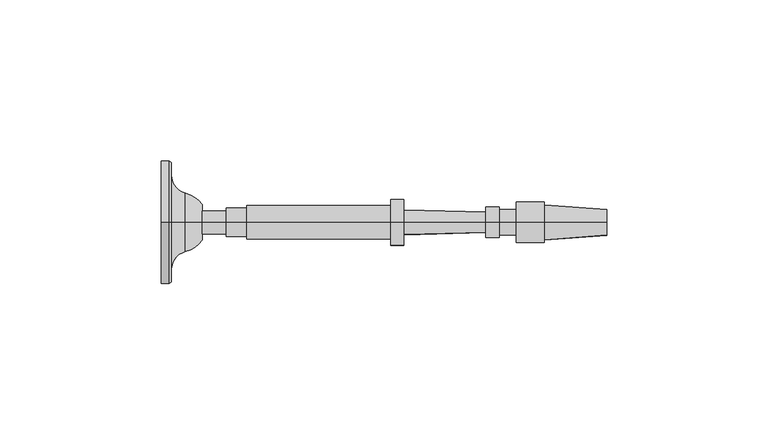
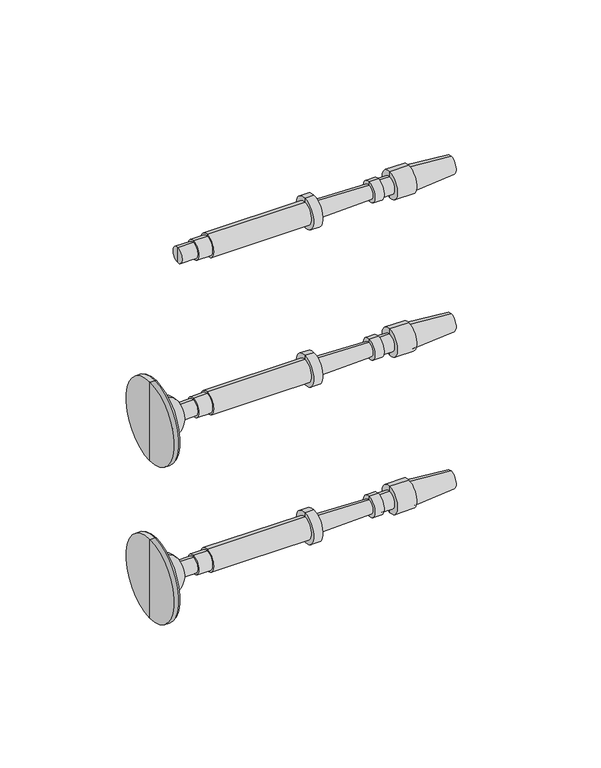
"""IFC4 building model written with IfcOpenShell, lengths in millimetres: railing geometry, RAILEASY CABLE RAILING CORNER TENSIONERS STAIR."""

from ifc_helpers import new_model, si_unit, point, frame, origin, place, context, project, spatial, polyline, circle_curve, ellipse_curve, trimmed, source, transform, mapped, element, save
from ifc_brep_helpers import plane_surface, cylinder_surface, revolved_surface, advanced_brep


def railing_faee88ab(model_context):
    return source(origin(), model_context, "Body", "AdvancedBrep", [
        advanced_brep(
        [(1822.6288256, 16706.2866843, 33140.0282881), (1822.6288256, 16706.2866843, 33147.1720381), (1822.6288256, 16706.2866843, 33143.6001631), (1947.5727148, 16706.2866843, 33143.6001631), (1947.8683792, 16706.2866843, 33147.6246235), (1947.8683792, 16706.2866843, 33139.5757028), (1928.5250152, 16706.2866843, 33149.045719), (1928.5250152, 16706.2866843, 33138.1546072), (1928.5250152, 16706.2866843, 33149.9386877), (1928.5250152, 16706.2866843, 33137.2616385), (1919.892984, 16706.2866843, 33149.9386877), (1919.892984, 16706.2866843, 33137.2616385), (1919.892984, 16706.2866843, 33147.5574377), (1919.892984, 16706.2866843, 33139.6428885), (1914.5351715, 16706.2866843, 33147.5574377), (1914.5351715, 16706.2866843, 33139.6428885), (1914.5351715, 16706.2866843, 33148.3511877), (1914.5351715, 16706.2866843, 33138.8491385), (1910.4672027, 16706.2866843, 33148.3511877), (1910.4672027, 16706.2866843, 33138.8491385), (1910.4231156, 16706.2866843, 33146.7643), (1910.4231156, 16706.2866843, 33140.4360262), (1885.0329124, 16706.2866843, 33147.4696944), (1885.0329124, 16706.2866843, 33139.7306319), (1885.0329124, 16706.2866843, 33150.7439131), (1885.0329124, 16706.2866843, 33136.4564131), (1881.0641624, 16706.2866843, 33150.7439131), (1881.0641624, 16706.2866843, 33136.4564131), (1881.0641624, 16706.2866843, 33148.7595381), (1881.0641624, 16706.2866843, 33138.4407881), (1836.3165061, 16706.2866843, 33148.7595381), (1836.3165061, 16706.2866843, 33138.4407881), (1836.3165061, 16706.2866843, 33147.9657881), (1836.3165061, 16706.2866843, 33139.2345381), (1829.9665061, 16706.2866843, 33147.9657881), (1829.9665061, 16706.2866843, 33139.2345381), (1829.9665061, 16706.2866843, 33147.1720381), (1829.9665061, 16706.2866843, 33140.0282881)],
        [
            (0, 1, circle_curve(frame((1822.6288256, 16706.2866843, 33143.6001631), z_axis=(-1.0, 0.0, 0.0), x_axis=(0.0, 0.0, 1.0000000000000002)), 3.571875)),
            (1, 2),
            (2, 0),
            (1, 0, circle_curve(frame((1822.6288256, 16706.2866843, 33143.6001631), z_axis=(-1.0, 0.0, 0.0), x_axis=(0.0, 0.0, 1.0000000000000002)), 3.571875)),
            (3, 4),
            (4, 5, circle_curve(frame((1947.8683792, 16706.2866843, 33143.6001631), z_axis=(1.0, 0.0, 0.0), x_axis=(0.0, 0.0, 1.0000000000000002)), 4.0244604)),
            (5, 3),
            (5, 4, circle_curve(frame((1947.8683792, 16706.2866843, 33143.6001631), z_axis=(1.0, 0.0, 0.0), x_axis=(0.0, 0.0, 1.0000000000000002)), 4.0244604)),
            (4, 6),
            (6, 7, circle_curve(frame((1928.5250152, 16706.2866843, 33143.6001631), z_axis=(1.0, 0.0, 0.0), x_axis=(0.0, 0.0, 1.0000000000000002)), 5.4455559)),
            (7, 5),
            (7, 6, circle_curve(frame((1928.5250152, 16706.2866843, 33143.6001631), z_axis=(1.0, 0.0, 0.0), x_axis=(0.0, 0.0, 1.0000000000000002)), 5.4455559)),
            (6, 8),
            (8, 9, circle_curve(frame((1928.5250152, 16706.2866843, 33143.6001631), z_axis=(1.0, 0.0, 0.0), x_axis=(0.0, 0.0, 1.0000000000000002)), 6.3385246)),
            (9, 7),
            (9, 8, circle_curve(frame((1928.5250152, 16706.2866843, 33143.6001631), z_axis=(1.0, 0.0, 0.0), x_axis=(0.0, 0.0, 1.0000000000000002)), 6.3385246)),
            (8, 10),
            (10, 11, circle_curve(frame((1919.892984, 16706.2866843, 33143.6001631), z_axis=(1.0, 0.0, 0.0), x_axis=(0.0, 0.0, 1.0000000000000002)), 6.3385246)),
            (11, 9),
            (11, 10, circle_curve(frame((1919.892984, 16706.2866843, 33143.6001631), z_axis=(1.0, 0.0, 0.0), x_axis=(0.0, 0.0, 1.0000000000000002)), 6.3385246)),
            (10, 12),
            (12, 13, circle_curve(frame((1919.892984, 16706.2866843, 33143.6001631), z_axis=(1.0, 0.0, 0.0), x_axis=(0.0, 0.0, 1.0000000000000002)), 3.9572746)),
            (13, 11),
            (13, 12, circle_curve(frame((1919.892984, 16706.2866843, 33143.6001631), z_axis=(1.0, 0.0, 0.0), x_axis=(0.0, 0.0, 1.0000000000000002)), 3.9572746)),
            (12, 14),
            (14, 15, circle_curve(frame((1914.5351715, 16706.2866843, 33143.6001631), z_axis=(1.0, 0.0, 0.0), x_axis=(0.0, 0.0, 1.0000000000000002)), 3.9572746)),
            (15, 13),
            (15, 14, circle_curve(frame((1914.5351715, 16706.2866843, 33143.6001631), z_axis=(1.0, 0.0, 0.0), x_axis=(0.0, 0.0, 1.0000000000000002)), 3.9572746)),
            (14, 16),
            (16, 17, circle_curve(frame((1914.5351715, 16706.2866843, 33143.6001631), z_axis=(1.0, 0.0, 0.0), x_axis=(0.0, 0.0, 1.0000000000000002)), 4.7510246)),
            (17, 15),
            (17, 16, circle_curve(frame((1914.5351715, 16706.2866843, 33143.6001631), z_axis=(1.0, 0.0, 0.0), x_axis=(0.0, 0.0, 1.0000000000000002)), 4.7510246)),
            (16, 18),
            (18, 19, circle_curve(frame((1910.4672027, 16706.2866843, 33143.6001631), z_axis=(1.0, 0.0, 0.0), x_axis=(0.0, 0.0, 1.0000000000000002)), 4.7510246)),
            (19, 17),
            (19, 18, circle_curve(frame((1910.4672027, 16706.2866843, 33143.6001631), z_axis=(1.0, 0.0, 0.0), x_axis=(0.0, 0.0, 1.0000000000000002)), 4.7510246)),
            (18, 20),
            (20, 21, circle_curve(frame((1910.4231156, 16706.2866843, 33143.6001631), z_axis=(1.0, 0.0, 0.0), x_axis=(0.0, 0.0, 1.0000000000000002)), 3.1641369)),
            (21, 19),
            (21, 20, circle_curve(frame((1910.4231156, 16706.2866843, 33143.6001631), z_axis=(1.0, 0.0, 0.0), x_axis=(0.0, 0.0, 1.0000000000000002)), 3.1641369)),
            (20, 22),
            (22, 23, circle_curve(frame((1885.0329124, 16706.2866843, 33143.6001631), z_axis=(1.0, 0.0, 0.0), x_axis=(0.0, 0.0, 1.0000000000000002)), 3.8695313)),
            (23, 21),
            (23, 22, circle_curve(frame((1885.0329124, 16706.2866843, 33143.6001631), z_axis=(1.0, 0.0, 0.0), x_axis=(0.0, 0.0, 1.0000000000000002)), 3.8695313)),
            (22, 24),
            (24, 25, circle_curve(frame((1885.0329124, 16706.2866843, 33143.6001631), z_axis=(1.0, 0.0, 0.0), x_axis=(0.0, 0.0, 1.0000000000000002)), 7.14375)),
            (25, 23),
            (25, 24, circle_curve(frame((1885.0329124, 16706.2866843, 33143.6001631), z_axis=(1.0, 0.0, 0.0), x_axis=(0.0, 0.0, 1.0000000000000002)), 7.14375)),
            (24, 26),
            (26, 27, circle_curve(frame((1881.0641624, 16706.2866843, 33143.6001631), z_axis=(1.0, 0.0, 0.0), x_axis=(0.0, 0.0, 1.0000000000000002)), 7.14375)),
            (27, 25),
            (27, 26, circle_curve(frame((1881.0641624, 16706.2866843, 33143.6001631), z_axis=(1.0, 0.0, 0.0), x_axis=(0.0, 0.0, 1.0000000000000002)), 7.14375)),
            (26, 28),
            (28, 29, circle_curve(frame((1881.0641624, 16706.2866843, 33143.6001631), z_axis=(1.0, 0.0, 0.0), x_axis=(0.0, 0.0, 1.0000000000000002)), 5.159375)),
            (29, 27),
            (29, 28, circle_curve(frame((1881.0641624, 16706.2866843, 33143.6001631), z_axis=(1.0, 0.0, 0.0), x_axis=(0.0, 0.0, 1.0000000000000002)), 5.159375)),
            (28, 30),
            (30, 31, circle_curve(frame((1836.3165061, 16706.2866843, 33143.6001631), z_axis=(1.0, 0.0, 0.0), x_axis=(0.0, 0.0, 1.0000000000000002)), 5.159375)),
            (31, 29),
            (31, 30, circle_curve(frame((1836.3165061, 16706.2866843, 33143.6001631), z_axis=(1.0, 0.0, 0.0), x_axis=(0.0, 0.0, 1.0000000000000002)), 5.159375)),
            (30, 32),
            (32, 33, circle_curve(frame((1836.3165061, 16706.2866843, 33143.6001631), z_axis=(1.0, 0.0, 0.0), x_axis=(0.0, 0.0, 1.0000000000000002)), 4.365625)),
            (33, 31),
            (33, 32, circle_curve(frame((1836.3165061, 16706.2866843, 33143.6001631), z_axis=(1.0, 0.0, 0.0), x_axis=(0.0, 0.0, 1.0000000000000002)), 4.365625)),
            (32, 34),
            (34, 35, circle_curve(frame((1829.9665061, 16706.2866843, 33143.6001631), z_axis=(1.0, 0.0, 0.0), x_axis=(0.0, 0.0, 1.0000000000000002)), 4.365625)),
            (35, 33),
            (35, 34, circle_curve(frame((1829.9665061, 16706.2866843, 33143.6001631), z_axis=(1.0, 0.0, 0.0), x_axis=(0.0, 0.0, 1.0000000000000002)), 4.365625)),
            (34, 36),
            (36, 37, circle_curve(frame((1829.9665061, 16706.2866843, 33143.6001631), z_axis=(1.0, 0.0, 0.0), x_axis=(0.0, 0.0, 1.0000000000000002)), 3.571875)),
            (37, 35),
            (37, 36, circle_curve(frame((1829.9665061, 16706.2866843, 33143.6001631), z_axis=(1.0, 0.0, 0.0), x_axis=(0.0, 0.0, 1.0000000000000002)), 3.571875)),
            (36, 1),
            (0, 37),
        ],
        [
            plane_surface(frame((1822.6288256, 16706.2866843, 33143.6001631), z_axis=(-1.0, 0.0, 0.0), x_axis=(0.0, 0.0, 1.0))),
            revolved_surface(polyline([(1947.8683792, 16706.2866843, 33147.6246235), (1947.5727148, 16706.2866843, 33143.6001631)]), (1947.5727148, 16706.2866843, 33143.6001631), (1.0, 0.0, 0.0)),
            revolved_surface(polyline([(1928.5250152, 16706.2866843, 33149.045719), (1947.8683792, 16706.2866843, 33147.6246235)]), (1947.5727148, 16706.2866843, 33143.6001631), (1.0, 0.0, 0.0)),
            plane_surface(frame((1928.5250152, 16706.2866843, 33143.6001631), z_axis=(1.0, 0.0, 0.0), x_axis=(0.0, 0.0, 1.0))),
            cylinder_surface(frame((1947.5727148, 16706.2866843, 33143.6001631), z_axis=(1.0, 0.0, 0.0), x_axis=(0.0, 0.0, 1.0000000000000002)), 6.3385246),
            plane_surface(frame((1919.892984, 16706.2866843, 33143.6001631), z_axis=(-1.0, 0.0, 0.0), x_axis=(0.0, 0.0, 1.0))),
            cylinder_surface(frame((1947.5727148, 16706.2866843, 33143.6001631), z_axis=(1.0, 0.0, 0.0), x_axis=(0.0, 0.0, 1.0000000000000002)), 3.9572746),
            plane_surface(frame((1914.5351715, 16706.2866843, 33143.6001631), z_axis=(1.0, 0.0, 0.0), x_axis=(0.0, 0.0, 1.0))),
            cylinder_surface(frame((1947.5727148, 16706.2866843, 33143.6001631), z_axis=(1.0, 0.0, 0.0), x_axis=(0.0, 0.0, 1.0000000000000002)), 4.7510246),
            plane_surface(frame((1910.4231156, 16706.2866843, 33143.6001631), z_axis=(-1.0, 0.0, 0.0), x_axis=(0.0, 0.0, 1.0))),
            revolved_surface(polyline([(1885.0329124, 16706.2866843, 33147.4696944), (1910.4231156, 16706.2866843, 33146.7643)]), (1947.5727148, 16706.2866843, 33143.6001631), (1.0, 0.0, 0.0)),
            plane_surface(frame((1885.0329124, 16706.2866843, 33143.6001631), z_axis=(1.0, 0.0, 0.0), x_axis=(0.0, 0.0, 1.0))),
            cylinder_surface(frame((1947.5727148, 16706.2866843, 33143.6001631), z_axis=(1.0, 0.0, 0.0), x_axis=(0.0, 0.0, 1.0000000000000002)), 7.14375),
            plane_surface(frame((1881.0641624, 16706.2866843, 33143.6001631), z_axis=(-1.0, 0.0, 0.0), x_axis=(0.0, 0.0, 1.0))),
            cylinder_surface(frame((1947.5727148, 16706.2866843, 33143.6001631), z_axis=(1.0, 0.0, 0.0), x_axis=(0.0, 0.0, 1.0000000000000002)), 5.159375),
            plane_surface(frame((1836.3165061, 16706.2866843, 33143.6001631), z_axis=(-1.0, 0.0, 0.0), x_axis=(0.0, 0.0, 1.0))),
            cylinder_surface(frame((1947.5727148, 16706.2866843, 33143.6001631), z_axis=(1.0, 0.0, 0.0), x_axis=(0.0, 0.0, 1.0000000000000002)), 4.365625),
            plane_surface(frame((1829.9665061, 16706.2866843, 33143.6001631), z_axis=(-1.0, 0.0, 0.0), x_axis=(0.0, 0.0, 1.0))),
            cylinder_surface(frame((1947.5727148, 16706.2866843, 33143.6001631), z_axis=(1.0, 0.0, 0.0), x_axis=(0.0, 0.0, 1.0000000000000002)), 3.571875),
        ],
        [
            (0, [[1, 2, 3]]),
            (0, [[4, -3, -2]]),
            (1, [[5, 6, 7]]),
            (1, [[-7, 8, -5]]),
            (2, [[-6, 9, 10, 11]]),
            (2, [[-8, -11, 12, -9]]),
            (3, [[-10, 13, 14, 15]]),
            (3, [[-12, -15, 16, -13]]),
            (4, [[-14, 17, 18, 19]]),
            (4, [[-16, -19, 20, -17]]),
            (5, [[-18, 21, 22, 23]]),
            (5, [[-20, -23, 24, -21]]),
            (6, [[-22, 25, 26, 27]]),
            (6, [[-24, -27, 28, -25]]),
            (7, [[-26, 29, 30, 31]]),
            (7, [[-28, -31, 32, -29]]),
            (8, [[-30, 33, 34, 35]]),
            (8, [[-32, -35, 36, -33]]),
            (9, [[-34, 37, 38, 39]]),
            (9, [[-36, -39, 40, -37]]),
            (10, [[-38, 41, 42, 43]]),
            (10, [[-40, -43, 44, -41]]),
            (11, [[-42, 45, 46, 47]]),
            (11, [[-44, -47, 48, -45]]),
            (12, [[-46, 49, 50, 51]]),
            (12, [[-48, -51, 52, -49]]),
            (13, [[-50, 53, 54, 55]]),
            (13, [[-52, -55, 56, -53]]),
            (14, [[-54, 57, 58, 59]]),
            (14, [[-56, -59, 60, -57]]),
            (15, [[-58, 61, 62, 63]]),
            (15, [[-60, -63, 64, -61]]),
            (16, [[-62, 65, 66, 67]]),
            (16, [[-64, -67, 68, -65]]),
            (17, [[-66, 69, 70, 71]]),
            (17, [[-68, -71, 72, -69]]),
            (18, [[-70, 73, -1, 74]]),
            (18, [[-72, -74, -4, -73]]),
        ],
    ),
        advanced_brep(
        [(1809.936189, 16706.2866843, 33067.4001631), (1809.936189, 16706.2866843, 33048.3501631), (1809.936189, 16706.2866843, 33086.4501631), (1822.6288256, 16706.2866843, 33061.8769785), (1822.6288256, 16706.2866843, 33067.4001631), (1822.6288256, 16706.2866843, 33072.9233478), (1817.3527292, 16706.2866843, 33058.2720381), (1817.3527292, 16706.2866843, 33076.5282881), (1812.9871042, 16706.2866843, 33052.6458254), (1812.9871042, 16706.2866843, 33082.1545009), (1812.9871042, 16706.2866843, 33048.7762941), (1812.9871042, 16706.2866843, 33086.0240321), (1812.317439, 16706.2866843, 33048.3501631), (1812.317439, 16706.2866843, 33086.4501631)],
        [
            (0, 1),
            (1, 2, circle_curve(frame((1809.936189, 16706.2866843, 33067.4001631), z_axis=(-1.0, 0.0, 0.0), x_axis=(0.0, 0.0, 1.0)), 19.05)),
            (2, 0),
            (2, 1, circle_curve(frame((1809.936189, 16706.2866843, 33067.4001631), z_axis=(-1.0, 0.0, 0.0), x_axis=(0.0, 0.0, 1.0)), 19.05)),
            (3, 4),
            (4, 5),
            (5, 3, circle_curve(frame((1822.6288256, 16706.2866843, 33067.4001631), z_axis=(1.0, 0.0, 0.0), x_axis=(0.0, 0.0, 1.0)), 5.5231846)),
            (3, 5, circle_curve(frame((1822.6288256, 16706.2866843, 33067.4001631), z_axis=(1.0, 0.0, 0.0), x_axis=(0.0, 0.0, 1.0)), 5.5231846)),
            (6, 3, circle_curve(frame((1815.0283205, 16706.2866843, 33067.3374304), z_axis=(0.0, -1.0, 0.0), x_axis=(1.0, 0.0, 0.0)), 9.3586438)),
            (5, 7, circle_curve(frame((1815.0283205, 16706.2866843, 33067.4628958), z_axis=(0.0, -1.0, 0.0), x_axis=(1.0, 0.0, 0.0)), 9.3586438)),
            (7, 6, circle_curve(frame((1817.3527292, 16706.2866843, 33067.4001631), z_axis=(1.0, 0.0, 0.0), x_axis=(0.0, 0.0, 1.0)), 9.128125)),
            (6, 7, circle_curve(frame((1817.3527292, 16706.2866843, 33067.4001631), z_axis=(1.0, 0.0, 0.0), x_axis=(0.0, 0.0, 1.0)), 9.128125)),
            (8, 6, circle_curve(frame((1818.7953162, 16706.2866843, 33052.6458254), z_axis=(0.0, 1.0, 0.0), x_axis=(1.0, 0.0, 0.0)), 5.8082121)),
            (7, 9, circle_curve(frame((1818.7953162, 16706.2866843, 33082.1545009), z_axis=(0.0, 1.0, 0.0), x_axis=(1.0, 0.0, 0.0)), 5.8082121)),
            (9, 8, circle_curve(frame((1812.9871042, 16706.2866843, 33067.4001631), z_axis=(1.0, 0.0, 0.0), x_axis=(0.0, 0.0, 1.0)), 14.7543378)),
            (8, 9, circle_curve(frame((1812.9871042, 16706.2866843, 33067.4001631), z_axis=(1.0, 0.0, 0.0), x_axis=(0.0, 0.0, 1.0)), 14.7543378)),
            (10, 8),
            (9, 11),
            (11, 10, circle_curve(frame((1812.9871042, 16706.2866843, 33067.4001631), z_axis=(1.0, 0.0, 0.0), x_axis=(0.0, 0.0, 1.0)), 18.623869)),
            (10, 11, circle_curve(frame((1812.9871042, 16706.2866843, 33067.4001631), z_axis=(1.0, 0.0, 0.0), x_axis=(0.0, 0.0, 1.0)), 18.623869)),
            (12, 10),
            (11, 13),
            (13, 12, circle_curve(frame((1812.317439, 16706.2866843, 33067.4001631), z_axis=(1.0, 0.0, 0.0), x_axis=(0.0, 0.0, 1.0)), 19.05)),
            (12, 13, circle_curve(frame((1812.317439, 16706.2866843, 33067.4001631), z_axis=(1.0, 0.0, 0.0), x_axis=(0.0, 0.0, 1.0)), 19.05)),
            (1, 12),
            (13, 2),
        ],
        [
            plane_surface(frame((1809.936189, 16706.2866843, 33067.4001631), z_axis=(-1.0, 0.0, 0.0), x_axis=(0.0, 0.0, 1.0))),
            plane_surface(frame((1822.6288256, 16706.2866843, 33067.4001631), z_axis=(1.0, 0.0, 0.0), x_axis=(0.0, 0.0, 1.0))),
            revolved_surface(trimmed(ellipse_curve(frame((1815.0283205, 16706.2866843, 33067.4628958), z_axis=(0.0, -1.0, 0.0), x_axis=(1.0, 0.0, 0.0)), 9.3586438, 9.3586438), [point((1822.6288256, 16706.2866843, 33072.9233478))], [point((1817.3527292, 16706.2866843, 33076.5282881))], True, "CARTESIAN"), (1809.936189, 16706.2866843, 33067.4001631), (-1.0, 0.0, 0.0)),
            revolved_surface(trimmed(ellipse_curve(frame((1818.7953162, 16706.2866843, 33082.1545009), z_axis=(0.0, 1.0, 0.0), x_axis=(1.0, 0.0, 0.0)), 5.8082121, 5.8082121), [point((1817.3527292, 16706.2866843, 33076.5282881))], [point((1812.9871042, 16706.2866843, 33082.1545009))], True, "CARTESIAN"), (1809.936189, 16706.2866843, 33067.4001631), (-1.0, 0.0, 0.0)),
            plane_surface(frame((1812.9871042, 16706.2866843, 33067.4001631), z_axis=(1.0, 0.0, 0.0), x_axis=(0.0, 0.0, 1.0))),
            revolved_surface(polyline([(1812.9871042, 16706.2866843, 33086.0240321), (1812.317439, 16706.2866843, 33086.4501631)]), (1809.936189, 16706.2866843, 33067.4001631), (-1.0, 0.0, 0.0)),
            cylinder_surface(frame((1809.936189, 16706.2866843, 33067.4001631), z_axis=(-1.0, 0.0, 0.0), x_axis=(0.0, 0.0, 1.0)), 19.05),
        ],
        [
            (0, [[1, 2, 3]]),
            (0, [[-3, 4, -1]]),
            (1, [[5, 6, 7]]),
            (1, [[-6, -5, 8]]),
            (2, [[9, -7, 10, 11]]),
            (2, [[-10, -8, -9, 12]]),
            (3, [[13, -11, 14, 15]]),
            (3, [[-14, -12, -13, 16]]),
            (4, [[17, -15, 18, 19]]),
            (4, [[-18, -16, -17, 20]]),
            (5, [[21, -19, 22, 23]]),
            (5, [[-22, -20, -21, 24]]),
            (6, [[25, -23, 26, -2]]),
            (6, [[-26, -24, -25, -4]]),
        ],
    ),
        advanced_brep(
        [(1822.6288256, 16706.2866843, 33063.8282881), (1822.6288256, 16706.2866843, 33070.9720381), (1822.6288256, 16706.2866843, 33067.4001631), (1947.5727148, 16706.2866843, 33067.4001631), (1947.8683792, 16706.2866843, 33071.4246235), (1947.8683792, 16706.2866843, 33063.3757028), (1928.5250152, 16706.2866843, 33072.845719), (1928.5250152, 16706.2866843, 33061.9546072), (1928.5250152, 16706.2866843, 33073.7386877), (1928.5250152, 16706.2866843, 33061.0616385), (1919.892984, 16706.2866843, 33073.7386877), (1919.892984, 16706.2866843, 33061.0616385), (1919.892984, 16706.2866843, 33071.3574377), (1919.892984, 16706.2866843, 33063.4428885), (1914.5351715, 16706.2866843, 33071.3574377), (1914.5351715, 16706.2866843, 33063.4428885), (1914.5351715, 16706.2866843, 33072.1511877), (1914.5351715, 16706.2866843, 33062.6491385), (1910.4672027, 16706.2866843, 33072.1511877), (1910.4672027, 16706.2866843, 33062.6491385), (1910.4231156, 16706.2866843, 33070.5643), (1910.4231156, 16706.2866843, 33064.2360262), (1885.0329124, 16706.2866843, 33071.2696944), (1885.0329124, 16706.2866843, 33063.5306319), (1885.0329124, 16706.2866843, 33074.5439131), (1885.0329124, 16706.2866843, 33060.2564131), (1881.0641624, 16706.2866843, 33074.5439131), (1881.0641624, 16706.2866843, 33060.2564131), (1881.0641624, 16706.2866843, 33072.5595381), (1881.0641624, 16706.2866843, 33062.2407881), (1836.3165061, 16706.2866843, 33072.5595381), (1836.3165061, 16706.2866843, 33062.2407881), (1836.3165061, 16706.2866843, 33071.7657881), (1836.3165061, 16706.2866843, 33063.0345381), (1829.9665061, 16706.2866843, 33071.7657881), (1829.9665061, 16706.2866843, 33063.0345381), (1829.9665061, 16706.2866843, 33070.9720381), (1829.9665061, 16706.2866843, 33063.8282881)],
        [
            (0, 1, circle_curve(frame((1822.6288256, 16706.2866843, 33067.4001631), z_axis=(-1.0, 0.0, 0.0), x_axis=(0.0, 0.0, 1.0000000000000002)), 3.571875)),
            (1, 2),
            (2, 0),
            (1, 0, circle_curve(frame((1822.6288256, 16706.2866843, 33067.4001631), z_axis=(-1.0, 0.0, 0.0), x_axis=(0.0, 0.0, 1.0000000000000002)), 3.571875)),
            (3, 4),
            (4, 5, circle_curve(frame((1947.8683792, 16706.2866843, 33067.4001631), z_axis=(1.0, 0.0, 0.0), x_axis=(0.0, 0.0, 1.0000000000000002)), 4.0244604)),
            (5, 3),
            (5, 4, circle_curve(frame((1947.8683792, 16706.2866843, 33067.4001631), z_axis=(1.0, 0.0, 0.0), x_axis=(0.0, 0.0, 1.0000000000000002)), 4.0244604)),
            (4, 6),
            (6, 7, circle_curve(frame((1928.5250152, 16706.2866843, 33067.4001631), z_axis=(1.0, 0.0, 0.0), x_axis=(0.0, 0.0, 1.0000000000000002)), 5.4455559)),
            (7, 5),
            (7, 6, circle_curve(frame((1928.5250152, 16706.2866843, 33067.4001631), z_axis=(1.0, 0.0, 0.0), x_axis=(0.0, 0.0, 1.0000000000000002)), 5.4455559)),
            (6, 8),
            (8, 9, circle_curve(frame((1928.5250152, 16706.2866843, 33067.4001631), z_axis=(1.0, 0.0, 0.0), x_axis=(0.0, 0.0, 1.0000000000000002)), 6.3385246)),
            (9, 7),
            (9, 8, circle_curve(frame((1928.5250152, 16706.2866843, 33067.4001631), z_axis=(1.0, 0.0, 0.0), x_axis=(0.0, 0.0, 1.0000000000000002)), 6.3385246)),
            (8, 10),
            (10, 11, circle_curve(frame((1919.892984, 16706.2866843, 33067.4001631), z_axis=(1.0, 0.0, 0.0), x_axis=(0.0, 0.0, 1.0000000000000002)), 6.3385246)),
            (11, 9),
            (11, 10, circle_curve(frame((1919.892984, 16706.2866843, 33067.4001631), z_axis=(1.0, 0.0, 0.0), x_axis=(0.0, 0.0, 1.0000000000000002)), 6.3385246)),
            (10, 12),
            (12, 13, circle_curve(frame((1919.892984, 16706.2866843, 33067.4001631), z_axis=(1.0, 0.0, 0.0), x_axis=(0.0, 0.0, 1.0000000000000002)), 3.9572746)),
            (13, 11),
            (13, 12, circle_curve(frame((1919.892984, 16706.2866843, 33067.4001631), z_axis=(1.0, 0.0, 0.0), x_axis=(0.0, 0.0, 1.0000000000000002)), 3.9572746)),
            (12, 14),
            (14, 15, circle_curve(frame((1914.5351715, 16706.2866843, 33067.4001631), z_axis=(1.0, 0.0, 0.0), x_axis=(0.0, 0.0, 1.0000000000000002)), 3.9572746)),
            (15, 13),
            (15, 14, circle_curve(frame((1914.5351715, 16706.2866843, 33067.4001631), z_axis=(1.0, 0.0, 0.0), x_axis=(0.0, 0.0, 1.0000000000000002)), 3.9572746)),
            (14, 16),
            (16, 17, circle_curve(frame((1914.5351715, 16706.2866843, 33067.4001631), z_axis=(1.0, 0.0, 0.0), x_axis=(0.0, 0.0, 1.0000000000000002)), 4.7510246)),
            (17, 15),
            (17, 16, circle_curve(frame((1914.5351715, 16706.2866843, 33067.4001631), z_axis=(1.0, 0.0, 0.0), x_axis=(0.0, 0.0, 1.0000000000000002)), 4.7510246)),
            (16, 18),
            (18, 19, circle_curve(frame((1910.4672027, 16706.2866843, 33067.4001631), z_axis=(1.0, 0.0, 0.0), x_axis=(0.0, 0.0, 1.0000000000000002)), 4.7510246)),
            (19, 17),
            (19, 18, circle_curve(frame((1910.4672027, 16706.2866843, 33067.4001631), z_axis=(1.0, 0.0, 0.0), x_axis=(0.0, 0.0, 1.0000000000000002)), 4.7510246)),
            (18, 20),
            (20, 21, circle_curve(frame((1910.4231156, 16706.2866843, 33067.4001631), z_axis=(1.0, 0.0, 0.0), x_axis=(0.0, 0.0, 1.0000000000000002)), 3.1641369)),
            (21, 19),
            (21, 20, circle_curve(frame((1910.4231156, 16706.2866843, 33067.4001631), z_axis=(1.0, 0.0, 0.0), x_axis=(0.0, 0.0, 1.0000000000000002)), 3.1641369)),
            (20, 22),
            (22, 23, circle_curve(frame((1885.0329124, 16706.2866843, 33067.4001631), z_axis=(1.0, 0.0, 0.0), x_axis=(0.0, 0.0, 1.0000000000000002)), 3.8695313)),
            (23, 21),
            (23, 22, circle_curve(frame((1885.0329124, 16706.2866843, 33067.4001631), z_axis=(1.0, 0.0, 0.0), x_axis=(0.0, 0.0, 1.0000000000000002)), 3.8695313)),
            (22, 24),
            (24, 25, circle_curve(frame((1885.0329124, 16706.2866843, 33067.4001631), z_axis=(1.0, 0.0, 0.0), x_axis=(0.0, 0.0, 1.0000000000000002)), 7.14375)),
            (25, 23),
            (25, 24, circle_curve(frame((1885.0329124, 16706.2866843, 33067.4001631), z_axis=(1.0, 0.0, 0.0), x_axis=(0.0, 0.0, 1.0000000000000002)), 7.14375)),
            (24, 26),
            (26, 27, circle_curve(frame((1881.0641624, 16706.2866843, 33067.4001631), z_axis=(1.0, 0.0, 0.0), x_axis=(0.0, 0.0, 1.0000000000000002)), 7.14375)),
            (27, 25),
            (27, 26, circle_curve(frame((1881.0641624, 16706.2866843, 33067.4001631), z_axis=(1.0, 0.0, 0.0), x_axis=(0.0, 0.0, 1.0000000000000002)), 7.14375)),
            (26, 28),
            (28, 29, circle_curve(frame((1881.0641624, 16706.2866843, 33067.4001631), z_axis=(1.0, 0.0, 0.0), x_axis=(0.0, 0.0, 1.0000000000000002)), 5.159375)),
            (29, 27),
            (29, 28, circle_curve(frame((1881.0641624, 16706.2866843, 33067.4001631), z_axis=(1.0, 0.0, 0.0), x_axis=(0.0, 0.0, 1.0000000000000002)), 5.159375)),
            (28, 30),
            (30, 31, circle_curve(frame((1836.3165061, 16706.2866843, 33067.4001631), z_axis=(1.0, 0.0, 0.0), x_axis=(0.0, 0.0, 1.0000000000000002)), 5.159375)),
            (31, 29),
            (31, 30, circle_curve(frame((1836.3165061, 16706.2866843, 33067.4001631), z_axis=(1.0, 0.0, 0.0), x_axis=(0.0, 0.0, 1.0000000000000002)), 5.159375)),
            (30, 32),
            (32, 33, circle_curve(frame((1836.3165061, 16706.2866843, 33067.4001631), z_axis=(1.0, 0.0, 0.0), x_axis=(0.0, 0.0, 1.0000000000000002)), 4.365625)),
            (33, 31),
            (33, 32, circle_curve(frame((1836.3165061, 16706.2866843, 33067.4001631), z_axis=(1.0, 0.0, 0.0), x_axis=(0.0, 0.0, 1.0000000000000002)), 4.365625)),
            (32, 34),
            (34, 35, circle_curve(frame((1829.9665061, 16706.2866843, 33067.4001631), z_axis=(1.0, 0.0, 0.0), x_axis=(0.0, 0.0, 1.0000000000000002)), 4.365625)),
            (35, 33),
            (35, 34, circle_curve(frame((1829.9665061, 16706.2866843, 33067.4001631), z_axis=(1.0, 0.0, 0.0), x_axis=(0.0, 0.0, 1.0000000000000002)), 4.365625)),
            (34, 36),
            (36, 37, circle_curve(frame((1829.9665061, 16706.2866843, 33067.4001631), z_axis=(1.0, 0.0, 0.0), x_axis=(0.0, 0.0, 1.0000000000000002)), 3.571875)),
            (37, 35),
            (37, 36, circle_curve(frame((1829.9665061, 16706.2866843, 33067.4001631), z_axis=(1.0, 0.0, 0.0), x_axis=(0.0, 0.0, 1.0000000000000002)), 3.571875)),
            (36, 1),
            (0, 37),
        ],
        [
            plane_surface(frame((1822.6288256, 16706.2866843, 33067.4001631), z_axis=(-1.0, 0.0, 0.0), x_axis=(0.0, 0.0, 1.0))),
            revolved_surface(polyline([(1947.8683792, 16706.2866843, 33071.4246235), (1947.5727148, 16706.2866843, 33067.4001631)]), (1947.5727148, 16706.2866843, 33067.4001631), (1.0, 0.0, 0.0)),
            revolved_surface(polyline([(1928.5250152, 16706.2866843, 33072.845719), (1947.8683792, 16706.2866843, 33071.4246235)]), (1947.5727148, 16706.2866843, 33067.4001631), (1.0, 0.0, 0.0)),
            plane_surface(frame((1928.5250152, 16706.2866843, 33067.4001631), z_axis=(1.0, 0.0, 0.0), x_axis=(0.0, 0.0, 1.0))),
            cylinder_surface(frame((1947.5727148, 16706.2866843, 33067.4001631), z_axis=(1.0, 0.0, 0.0), x_axis=(0.0, 0.0, 1.0000000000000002)), 6.3385246),
            plane_surface(frame((1919.892984, 16706.2866843, 33067.4001631), z_axis=(-1.0, 0.0, 0.0), x_axis=(0.0, 0.0, 1.0))),
            cylinder_surface(frame((1947.5727148, 16706.2866843, 33067.4001631), z_axis=(1.0, 0.0, 0.0), x_axis=(0.0, 0.0, 1.0000000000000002)), 3.9572746),
            plane_surface(frame((1914.5351715, 16706.2866843, 33067.4001631), z_axis=(1.0, 0.0, 0.0), x_axis=(0.0, 0.0, 1.0))),
            cylinder_surface(frame((1947.5727148, 16706.2866843, 33067.4001631), z_axis=(1.0, 0.0, 0.0), x_axis=(0.0, 0.0, 1.0000000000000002)), 4.7510246),
            plane_surface(frame((1910.4231156, 16706.2866843, 33067.4001631), z_axis=(-1.0, 0.0, 0.0), x_axis=(0.0, 0.0, 1.0))),
            revolved_surface(polyline([(1885.0329124, 16706.2866843, 33071.2696944), (1910.4231156, 16706.2866843, 33070.5643)]), (1947.5727148, 16706.2866843, 33067.4001631), (1.0, 0.0, 0.0)),
            plane_surface(frame((1885.0329124, 16706.2866843, 33067.4001631), z_axis=(1.0, 0.0, 0.0), x_axis=(0.0, 0.0, 1.0))),
            cylinder_surface(frame((1947.5727148, 16706.2866843, 33067.4001631), z_axis=(1.0, 0.0, 0.0), x_axis=(0.0, 0.0, 1.0000000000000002)), 7.14375),
            plane_surface(frame((1881.0641624, 16706.2866843, 33067.4001631), z_axis=(-1.0, 0.0, 0.0), x_axis=(0.0, 0.0, 1.0))),
            cylinder_surface(frame((1947.5727148, 16706.2866843, 33067.4001631), z_axis=(1.0, 0.0, 0.0), x_axis=(0.0, 0.0, 1.0000000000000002)), 5.159375),
            plane_surface(frame((1836.3165061, 16706.2866843, 33067.4001631), z_axis=(-1.0, 0.0, 0.0), x_axis=(0.0, 0.0, 1.0))),
            cylinder_surface(frame((1947.5727148, 16706.2866843, 33067.4001631), z_axis=(1.0, 0.0, 0.0), x_axis=(0.0, 0.0, 1.0000000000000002)), 4.365625),
            plane_surface(frame((1829.9665061, 16706.2866843, 33067.4001631), z_axis=(-1.0, 0.0, 0.0), x_axis=(0.0, 0.0, 1.0))),
            cylinder_surface(frame((1947.5727148, 16706.2866843, 33067.4001631), z_axis=(1.0, 0.0, 0.0), x_axis=(0.0, 0.0, 1.0000000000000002)), 3.571875),
        ],
        [
            (0, [[1, 2, 3]]),
            (0, [[4, -3, -2]]),
            (1, [[5, 6, 7]]),
            (1, [[-7, 8, -5]]),
            (2, [[-6, 9, 10, 11]]),
            (2, [[-8, -11, 12, -9]]),
            (3, [[-10, 13, 14, 15]]),
            (3, [[-12, -15, 16, -13]]),
            (4, [[-14, 17, 18, 19]]),
            (4, [[-16, -19, 20, -17]]),
            (5, [[-18, 21, 22, 23]]),
            (5, [[-20, -23, 24, -21]]),
            (6, [[-22, 25, 26, 27]]),
            (6, [[-24, -27, 28, -25]]),
            (7, [[-26, 29, 30, 31]]),
            (7, [[-28, -31, 32, -29]]),
            (8, [[-30, 33, 34, 35]]),
            (8, [[-32, -35, 36, -33]]),
            (9, [[-34, 37, 38, 39]]),
            (9, [[-36, -39, 40, -37]]),
            (10, [[-38, 41, 42, 43]]),
            (10, [[-40, -43, 44, -41]]),
            (11, [[-42, 45, 46, 47]]),
            (11, [[-44, -47, 48, -45]]),
            (12, [[-46, 49, 50, 51]]),
            (12, [[-48, -51, 52, -49]]),
            (13, [[-50, 53, 54, 55]]),
            (13, [[-52, -55, 56, -53]]),
            (14, [[-54, 57, 58, 59]]),
            (14, [[-56, -59, 60, -57]]),
            (15, [[-58, 61, 62, 63]]),
            (15, [[-60, -63, 64, -61]]),
            (16, [[-62, 65, 66, 67]]),
            (16, [[-64, -67, 68, -65]]),
            (17, [[-66, 69, 70, 71]]),
            (17, [[-68, -71, 72, -69]]),
            (18, [[-70, 73, -1, 74]]),
            (18, [[-72, -74, -4, -73]]),
        ],
    ),
        advanced_brep(
        [(1809.936189, 16706.2866843, 32991.2001631), (1809.936189, 16706.2866843, 32972.1501631), (1809.936189, 16706.2866843, 33010.2501631), (1822.6288256, 16706.2866843, 32985.6769785), (1822.6288256, 16706.2866843, 32991.2001631), (1822.6288256, 16706.2866843, 32996.7233478), (1817.3527292, 16706.2866843, 32982.0720381), (1817.3527292, 16706.2866843, 33000.3282881), (1812.9871042, 16706.2866843, 32976.4458254), (1812.9871042, 16706.2866843, 33005.9545009), (1812.9871042, 16706.2866843, 32972.5762941), (1812.9871042, 16706.2866843, 33009.8240321), (1812.317439, 16706.2866843, 32972.1501631), (1812.317439, 16706.2866843, 33010.2501631)],
        [
            (0, 1),
            (1, 2, circle_curve(frame((1809.936189, 16706.2866843, 32991.2001631), z_axis=(-1.0, 0.0, 0.0), x_axis=(0.0, 0.0, 1.0)), 19.05)),
            (2, 0),
            (2, 1, circle_curve(frame((1809.936189, 16706.2866843, 32991.2001631), z_axis=(-1.0, 0.0, 0.0), x_axis=(0.0, 0.0, 1.0)), 19.05)),
            (3, 4),
            (4, 5),
            (5, 3, circle_curve(frame((1822.6288256, 16706.2866843, 32991.2001631), z_axis=(1.0, 0.0, 0.0), x_axis=(0.0, 0.0, 1.0)), 5.5231846)),
            (3, 5, circle_curve(frame((1822.6288256, 16706.2866843, 32991.2001631), z_axis=(1.0, 0.0, 0.0), x_axis=(0.0, 0.0, 1.0)), 5.5231846)),
            (6, 3, circle_curve(frame((1815.0283205, 16706.2866843, 32991.1374304), z_axis=(0.0, -1.0, 0.0), x_axis=(1.0, 0.0, 0.0)), 9.3586438)),
            (5, 7, circle_curve(frame((1815.0283205, 16706.2866843, 32991.2628958), z_axis=(0.0, -1.0, 0.0), x_axis=(1.0, 0.0, 0.0)), 9.3586438)),
            (7, 6, circle_curve(frame((1817.3527292, 16706.2866843, 32991.2001631), z_axis=(1.0, 0.0, 0.0), x_axis=(0.0, 0.0, 1.0)), 9.128125)),
            (6, 7, circle_curve(frame((1817.3527292, 16706.2866843, 32991.2001631), z_axis=(1.0, 0.0, 0.0), x_axis=(0.0, 0.0, 1.0)), 9.128125)),
            (8, 6, circle_curve(frame((1818.7953162, 16706.2866843, 32976.4458254), z_axis=(0.0, 1.0, 0.0), x_axis=(1.0, 0.0, 0.0)), 5.8082121)),
            (7, 9, circle_curve(frame((1818.7953162, 16706.2866843, 33005.9545009), z_axis=(0.0, 1.0, 0.0), x_axis=(1.0, 0.0, 0.0)), 5.8082121)),
            (9, 8, circle_curve(frame((1812.9871042, 16706.2866843, 32991.2001631), z_axis=(1.0, 0.0, 0.0), x_axis=(0.0, 0.0, 1.0)), 14.7543378)),
            (8, 9, circle_curve(frame((1812.9871042, 16706.2866843, 32991.2001631), z_axis=(1.0, 0.0, 0.0), x_axis=(0.0, 0.0, 1.0)), 14.7543378)),
            (10, 8),
            (9, 11),
            (11, 10, circle_curve(frame((1812.9871042, 16706.2866843, 32991.2001631), z_axis=(1.0, 0.0, 0.0), x_axis=(0.0, 0.0, 1.0)), 18.623869)),
            (10, 11, circle_curve(frame((1812.9871042, 16706.2866843, 32991.2001631), z_axis=(1.0, 0.0, 0.0), x_axis=(0.0, 0.0, 1.0)), 18.623869)),
            (12, 10),
            (11, 13),
            (13, 12, circle_curve(frame((1812.317439, 16706.2866843, 32991.2001631), z_axis=(1.0, 0.0, 0.0), x_axis=(0.0, 0.0, 1.0)), 19.05)),
            (12, 13, circle_curve(frame((1812.317439, 16706.2866843, 32991.2001631), z_axis=(1.0, 0.0, 0.0), x_axis=(0.0, 0.0, 1.0)), 19.05)),
            (1, 12),
            (13, 2),
        ],
        [
            plane_surface(frame((1809.936189, 16706.2866843, 32991.2001631), z_axis=(-1.0, 0.0, 0.0), x_axis=(0.0, 0.0, 1.0))),
            plane_surface(frame((1822.6288256, 16706.2866843, 32991.2001631), z_axis=(1.0, 0.0, 0.0), x_axis=(0.0, 0.0, 1.0))),
            revolved_surface(trimmed(ellipse_curve(frame((1815.0283205, 16706.2866843, 32991.2628958), z_axis=(0.0, -1.0, 0.0), x_axis=(1.0, 0.0, 0.0)), 9.3586438, 9.3586438), [point((1822.6288256, 16706.2866843, 32996.7233478))], [point((1817.3527292, 16706.2866843, 33000.3282881))], True, "CARTESIAN"), (1809.936189, 16706.2866843, 32991.2001631), (-1.0, 0.0, 0.0)),
            revolved_surface(trimmed(ellipse_curve(frame((1818.7953162, 16706.2866843, 33005.9545009), z_axis=(0.0, 1.0, 0.0), x_axis=(1.0, 0.0, 0.0)), 5.8082121, 5.8082121), [point((1817.3527292, 16706.2866843, 33000.3282881))], [point((1812.9871042, 16706.2866843, 33005.9545009))], True, "CARTESIAN"), (1809.936189, 16706.2866843, 32991.2001631), (-1.0, 0.0, 0.0)),
            plane_surface(frame((1812.9871042, 16706.2866843, 32991.2001631), z_axis=(1.0, 0.0, 0.0), x_axis=(0.0, 0.0, 1.0))),
            revolved_surface(polyline([(1812.9871042, 16706.2866843, 33009.8240321), (1812.317439, 16706.2866843, 33010.2501631)]), (1809.936189, 16706.2866843, 32991.2001631), (-1.0, 0.0, 0.0)),
            cylinder_surface(frame((1809.936189, 16706.2866843, 32991.2001631), z_axis=(-1.0, 0.0, 0.0), x_axis=(0.0, 0.0, 1.0)), 19.05),
        ],
        [
            (0, [[1, 2, 3]]),
            (0, [[-3, 4, -1]]),
            (1, [[5, 6, 7]]),
            (1, [[-6, -5, 8]]),
            (2, [[9, -7, 10, 11]]),
            (2, [[-10, -8, -9, 12]]),
            (3, [[13, -11, 14, 15]]),
            (3, [[-14, -12, -13, 16]]),
            (4, [[17, -15, 18, 19]]),
            (4, [[-18, -16, -17, 20]]),
            (5, [[21, -19, 22, 23]]),
            (5, [[-22, -20, -21, 24]]),
            (6, [[25, -23, 26, -2]]),
            (6, [[-26, -24, -25, -4]]),
        ],
    ),
        advanced_brep(
        [(1822.6288256, 16706.2866843, 32987.6282881), (1822.6288256, 16706.2866843, 32994.7720381), (1822.6288256, 16706.2866843, 32991.2001631), (1947.5727148, 16706.2866843, 32991.2001631), (1947.8683792, 16706.2866843, 32995.2246235), (1947.8683792, 16706.2866843, 32987.1757028), (1928.5250152, 16706.2866843, 32996.645719), (1928.5250152, 16706.2866843, 32985.7546072), (1928.5250152, 16706.2866843, 32997.5386877), (1928.5250152, 16706.2866843, 32984.8616385), (1919.892984, 16706.2866843, 32997.5386877), (1919.892984, 16706.2866843, 32984.8616385), (1919.892984, 16706.2866843, 32995.1574377), (1919.892984, 16706.2866843, 32987.2428885), (1914.5351715, 16706.2866843, 32995.1574377), (1914.5351715, 16706.2866843, 32987.2428885), (1914.5351715, 16706.2866843, 32995.9511877), (1914.5351715, 16706.2866843, 32986.4491385), (1910.4672027, 16706.2866843, 32995.9511877), (1910.4672027, 16706.2866843, 32986.4491385), (1910.4231156, 16706.2866843, 32994.3643), (1910.4231156, 16706.2866843, 32988.0360262), (1885.0329124, 16706.2866843, 32995.0696944), (1885.0329124, 16706.2866843, 32987.3306319), (1885.0329124, 16706.2866843, 32998.3439131), (1885.0329124, 16706.2866843, 32984.0564131), (1881.0641624, 16706.2866843, 32998.3439131), (1881.0641624, 16706.2866843, 32984.0564131), (1881.0641624, 16706.2866843, 32996.3595381), (1881.0641624, 16706.2866843, 32986.0407881), (1836.3165061, 16706.2866843, 32996.3595381), (1836.3165061, 16706.2866843, 32986.0407881), (1836.3165061, 16706.2866843, 32995.5657881), (1836.3165061, 16706.2866843, 32986.8345381), (1829.9665061, 16706.2866843, 32995.5657881), (1829.9665061, 16706.2866843, 32986.8345381), (1829.9665061, 16706.2866843, 32994.7720381), (1829.9665061, 16706.2866843, 32987.6282881)],
        [
            (0, 1, circle_curve(frame((1822.6288256, 16706.2866843, 32991.2001631), z_axis=(-1.0, 0.0, 0.0), x_axis=(0.0, 0.0, 1.0000000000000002)), 3.571875)),
            (1, 2),
            (2, 0),
            (1, 0, circle_curve(frame((1822.6288256, 16706.2866843, 32991.2001631), z_axis=(-1.0, 0.0, 0.0), x_axis=(0.0, 0.0, 1.0000000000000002)), 3.571875)),
            (3, 4),
            (4, 5, circle_curve(frame((1947.8683792, 16706.2866843, 32991.2001631), z_axis=(1.0, 0.0, 0.0), x_axis=(0.0, 0.0, 1.0000000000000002)), 4.0244604)),
            (5, 3),
            (5, 4, circle_curve(frame((1947.8683792, 16706.2866843, 32991.2001631), z_axis=(1.0, 0.0, 0.0), x_axis=(0.0, 0.0, 1.0000000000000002)), 4.0244604)),
            (4, 6),
            (6, 7, circle_curve(frame((1928.5250152, 16706.2866843, 32991.2001631), z_axis=(1.0, 0.0, 0.0), x_axis=(0.0, 0.0, 1.0000000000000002)), 5.4455559)),
            (7, 5),
            (7, 6, circle_curve(frame((1928.5250152, 16706.2866843, 32991.2001631), z_axis=(1.0, 0.0, 0.0), x_axis=(0.0, 0.0, 1.0000000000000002)), 5.4455559)),
            (6, 8),
            (8, 9, circle_curve(frame((1928.5250152, 16706.2866843, 32991.2001631), z_axis=(1.0, 0.0, 0.0), x_axis=(0.0, 0.0, 1.0000000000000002)), 6.3385246)),
            (9, 7),
            (9, 8, circle_curve(frame((1928.5250152, 16706.2866843, 32991.2001631), z_axis=(1.0, 0.0, 0.0), x_axis=(0.0, 0.0, 1.0000000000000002)), 6.3385246)),
            (8, 10),
            (10, 11, circle_curve(frame((1919.892984, 16706.2866843, 32991.2001631), z_axis=(1.0, 0.0, 0.0), x_axis=(0.0, 0.0, 1.0000000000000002)), 6.3385246)),
            (11, 9),
            (11, 10, circle_curve(frame((1919.892984, 16706.2866843, 32991.2001631), z_axis=(1.0, 0.0, 0.0), x_axis=(0.0, 0.0, 1.0000000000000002)), 6.3385246)),
            (10, 12),
            (12, 13, circle_curve(frame((1919.892984, 16706.2866843, 32991.2001631), z_axis=(1.0, 0.0, 0.0), x_axis=(0.0, 0.0, 1.0000000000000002)), 3.9572746)),
            (13, 11),
            (13, 12, circle_curve(frame((1919.892984, 16706.2866843, 32991.2001631), z_axis=(1.0, 0.0, 0.0), x_axis=(0.0, 0.0, 1.0000000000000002)), 3.9572746)),
            (12, 14),
            (14, 15, circle_curve(frame((1914.5351715, 16706.2866843, 32991.2001631), z_axis=(1.0, 0.0, 0.0), x_axis=(0.0, 0.0, 1.0000000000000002)), 3.9572746)),
            (15, 13),
            (15, 14, circle_curve(frame((1914.5351715, 16706.2866843, 32991.2001631), z_axis=(1.0, 0.0, 0.0), x_axis=(0.0, 0.0, 1.0000000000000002)), 3.9572746)),
            (14, 16),
            (16, 17, circle_curve(frame((1914.5351715, 16706.2866843, 32991.2001631), z_axis=(1.0, 0.0, 0.0), x_axis=(0.0, 0.0, 1.0000000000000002)), 4.7510246)),
            (17, 15),
            (17, 16, circle_curve(frame((1914.5351715, 16706.2866843, 32991.2001631), z_axis=(1.0, 0.0, 0.0), x_axis=(0.0, 0.0, 1.0000000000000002)), 4.7510246)),
            (16, 18),
            (18, 19, circle_curve(frame((1910.4672027, 16706.2866843, 32991.2001631), z_axis=(1.0, 0.0, 0.0), x_axis=(0.0, 0.0, 1.0000000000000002)), 4.7510246)),
            (19, 17),
            (19, 18, circle_curve(frame((1910.4672027, 16706.2866843, 32991.2001631), z_axis=(1.0, 0.0, 0.0), x_axis=(0.0, 0.0, 1.0000000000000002)), 4.7510246)),
            (18, 20),
            (20, 21, circle_curve(frame((1910.4231156, 16706.2866843, 32991.2001631), z_axis=(1.0, 0.0, 0.0), x_axis=(0.0, 0.0, 1.0000000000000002)), 3.1641369)),
            (21, 19),
            (21, 20, circle_curve(frame((1910.4231156, 16706.2866843, 32991.2001631), z_axis=(1.0, 0.0, 0.0), x_axis=(0.0, 0.0, 1.0000000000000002)), 3.1641369)),
            (20, 22),
            (22, 23, circle_curve(frame((1885.0329124, 16706.2866843, 32991.2001631), z_axis=(1.0, 0.0, 0.0), x_axis=(0.0, 0.0, 1.0000000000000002)), 3.8695313)),
            (23, 21),
            (23, 22, circle_curve(frame((1885.0329124, 16706.2866843, 32991.2001631), z_axis=(1.0, 0.0, 0.0), x_axis=(0.0, 0.0, 1.0000000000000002)), 3.8695313)),
            (22, 24),
            (24, 25, circle_curve(frame((1885.0329124, 16706.2866843, 32991.2001631), z_axis=(1.0, 0.0, 0.0), x_axis=(0.0, 0.0, 1.0000000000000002)), 7.14375)),
            (25, 23),
            (25, 24, circle_curve(frame((1885.0329124, 16706.2866843, 32991.2001631), z_axis=(1.0, 0.0, 0.0), x_axis=(0.0, 0.0, 1.0000000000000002)), 7.14375)),
            (24, 26),
            (26, 27, circle_curve(frame((1881.0641624, 16706.2866843, 32991.2001631), z_axis=(1.0, 0.0, 0.0), x_axis=(0.0, 0.0, 1.0000000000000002)), 7.14375)),
            (27, 25),
            (27, 26, circle_curve(frame((1881.0641624, 16706.2866843, 32991.2001631), z_axis=(1.0, 0.0, 0.0), x_axis=(0.0, 0.0, 1.0000000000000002)), 7.14375)),
            (26, 28),
            (28, 29, circle_curve(frame((1881.0641624, 16706.2866843, 32991.2001631), z_axis=(1.0, 0.0, 0.0), x_axis=(0.0, 0.0, 1.0000000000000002)), 5.159375)),
            (29, 27),
            (29, 28, circle_curve(frame((1881.0641624, 16706.2866843, 32991.2001631), z_axis=(1.0, 0.0, 0.0), x_axis=(0.0, 0.0, 1.0000000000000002)), 5.159375)),
            (28, 30),
            (30, 31, circle_curve(frame((1836.3165061, 16706.2866843, 32991.2001631), z_axis=(1.0, 0.0, 0.0), x_axis=(0.0, 0.0, 1.0000000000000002)), 5.159375)),
            (31, 29),
            (31, 30, circle_curve(frame((1836.3165061, 16706.2866843, 32991.2001631), z_axis=(1.0, 0.0, 0.0), x_axis=(0.0, 0.0, 1.0000000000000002)), 5.159375)),
            (30, 32),
            (32, 33, circle_curve(frame((1836.3165061, 16706.2866843, 32991.2001631), z_axis=(1.0, 0.0, 0.0), x_axis=(0.0, 0.0, 1.0000000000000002)), 4.365625)),
            (33, 31),
            (33, 32, circle_curve(frame((1836.3165061, 16706.2866843, 32991.2001631), z_axis=(1.0, 0.0, 0.0), x_axis=(0.0, 0.0, 1.0000000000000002)), 4.365625)),
            (32, 34),
            (34, 35, circle_curve(frame((1829.9665061, 16706.2866843, 32991.2001631), z_axis=(1.0, 0.0, 0.0), x_axis=(0.0, 0.0, 1.0000000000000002)), 4.365625)),
            (35, 33),
            (35, 34, circle_curve(frame((1829.9665061, 16706.2866843, 32991.2001631), z_axis=(1.0, 0.0, 0.0), x_axis=(0.0, 0.0, 1.0000000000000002)), 4.365625)),
            (34, 36),
            (36, 37, circle_curve(frame((1829.9665061, 16706.2866843, 32991.2001631), z_axis=(1.0, 0.0, 0.0), x_axis=(0.0, 0.0, 1.0000000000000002)), 3.571875)),
            (37, 35),
            (37, 36, circle_curve(frame((1829.9665061, 16706.2866843, 32991.2001631), z_axis=(1.0, 0.0, 0.0), x_axis=(0.0, 0.0, 1.0000000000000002)), 3.571875)),
            (36, 1),
            (0, 37),
        ],
        [
            plane_surface(frame((1822.6288256, 16706.2866843, 32991.2001631), z_axis=(-1.0, 0.0, 0.0), x_axis=(0.0, 0.0, 1.0))),
            revolved_surface(polyline([(1947.8683792, 16706.2866843, 32995.2246235), (1947.5727148, 16706.2866843, 32991.2001631)]), (1947.5727148, 16706.2866843, 32991.2001631), (1.0, 0.0, 0.0)),
            revolved_surface(polyline([(1928.5250152, 16706.2866843, 32996.645719), (1947.8683792, 16706.2866843, 32995.2246235)]), (1947.5727148, 16706.2866843, 32991.2001631), (1.0, 0.0, 0.0)),
            plane_surface(frame((1928.5250152, 16706.2866843, 32991.2001631), z_axis=(1.0, 0.0, 0.0), x_axis=(0.0, 0.0, 1.0))),
            cylinder_surface(frame((1947.5727148, 16706.2866843, 32991.2001631), z_axis=(1.0, 0.0, 0.0), x_axis=(0.0, 0.0, 1.0000000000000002)), 6.3385246),
            plane_surface(frame((1919.892984, 16706.2866843, 32991.2001631), z_axis=(-1.0, 0.0, 0.0), x_axis=(0.0, 0.0, 1.0))),
            cylinder_surface(frame((1947.5727148, 16706.2866843, 32991.2001631), z_axis=(1.0, 0.0, 0.0), x_axis=(0.0, 0.0, 1.0000000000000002)), 3.9572746),
            plane_surface(frame((1914.5351715, 16706.2866843, 32991.2001631), z_axis=(1.0, 0.0, 0.0), x_axis=(0.0, 0.0, 1.0))),
            cylinder_surface(frame((1947.5727148, 16706.2866843, 32991.2001631), z_axis=(1.0, 0.0, 0.0), x_axis=(0.0, 0.0, 1.0000000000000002)), 4.7510246),
            plane_surface(frame((1910.4231156, 16706.2866843, 32991.2001631), z_axis=(-1.0, 0.0, 0.0), x_axis=(0.0, 0.0, 1.0))),
            revolved_surface(polyline([(1885.0329124, 16706.2866843, 32995.0696944), (1910.4231156, 16706.2866843, 32994.3643)]), (1947.5727148, 16706.2866843, 32991.2001631), (1.0, 0.0, 0.0)),
            plane_surface(frame((1885.0329124, 16706.2866843, 32991.2001631), z_axis=(1.0, 0.0, 0.0), x_axis=(0.0, 0.0, 1.0))),
            cylinder_surface(frame((1947.5727148, 16706.2866843, 32991.2001631), z_axis=(1.0, 0.0, 0.0), x_axis=(0.0, 0.0, 1.0000000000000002)), 7.14375),
            plane_surface(frame((1881.0641624, 16706.2866843, 32991.2001631), z_axis=(-1.0, 0.0, 0.0), x_axis=(0.0, 0.0, 1.0))),
            cylinder_surface(frame((1947.5727148, 16706.2866843, 32991.2001631), z_axis=(1.0, 0.0, 0.0), x_axis=(0.0, 0.0, 1.0000000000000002)), 5.159375),
            plane_surface(frame((1836.3165061, 16706.2866843, 32991.2001631), z_axis=(-1.0, 0.0, 0.0), x_axis=(0.0, 0.0, 1.0))),
            cylinder_surface(frame((1947.5727148, 16706.2866843, 32991.2001631), z_axis=(1.0, 0.0, 0.0), x_axis=(0.0, 0.0, 1.0000000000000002)), 4.365625),
            plane_surface(frame((1829.9665061, 16706.2866843, 32991.2001631), z_axis=(-1.0, 0.0, 0.0), x_axis=(0.0, 0.0, 1.0))),
            cylinder_surface(frame((1947.5727148, 16706.2866843, 32991.2001631), z_axis=(1.0, 0.0, 0.0), x_axis=(0.0, 0.0, 1.0000000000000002)), 3.571875),
        ],
        [
            (0, [[1, 2, 3]]),
            (0, [[4, -3, -2]]),
            (1, [[5, 6, 7]]),
            (1, [[-7, 8, -5]]),
            (2, [[-6, 9, 10, 11]]),
            (2, [[-8, -11, 12, -9]]),
            (3, [[-10, 13, 14, 15]]),
            (3, [[-12, -15, 16, -13]]),
            (4, [[-14, 17, 18, 19]]),
            (4, [[-16, -19, 20, -17]]),
            (5, [[-18, 21, 22, 23]]),
            (5, [[-20, -23, 24, -21]]),
            (6, [[-22, 25, 26, 27]]),
            (6, [[-24, -27, 28, -25]]),
            (7, [[-26, 29, 30, 31]]),
            (7, [[-28, -31, 32, -29]]),
            (8, [[-30, 33, 34, 35]]),
            (8, [[-32, -35, 36, -33]]),
            (9, [[-34, 37, 38, 39]]),
            (9, [[-36, -39, 40, -37]]),
            (10, [[-38, 41, 42, 43]]),
            (10, [[-40, -43, 44, -41]]),
            (11, [[-42, 45, 46, 47]]),
            (11, [[-44, -47, 48, -45]]),
            (12, [[-46, 49, 50, 51]]),
            (12, [[-48, -51, 52, -49]]),
            (13, [[-50, 53, 54, 55]]),
            (13, [[-52, -55, 56, -53]]),
            (14, [[-54, 57, 58, 59]]),
            (14, [[-56, -59, 60, -57]]),
            (15, [[-58, 61, 62, 63]]),
            (15, [[-60, -63, 64, -61]]),
            (16, [[-62, 65, 66, 67]]),
            (16, [[-64, -67, 68, -65]]),
            (17, [[-66, 69, 70, 71]]),
            (17, [[-68, -71, 72, -69]]),
            (18, [[-70, 73, -1, 74]]),
            (18, [[-72, -74, -4, -73]]),
        ],
    ),
    ])


if __name__ == "__main__":
    model = new_model("IFC4")
    model_context = context("Model", 3, world=origin())
    ifc_project = project(units=[si_unit("LENGTHUNIT", "METRE", prefix="MILLI")], contexts=[model_context])
    site = spatial("IfcSite", under=ifc_project)
    building = spatial("IfcBuilding", under=site)
    placement = place(None, origin())
    railing_shape = railing_faee88ab(model_context)
    element("IfcRailing", 1, ObjectType="RAILEASY CABLE RAILING CORNER TENSIONERS STAIR", at=placement, inside=building, context=model_context, shape_type="MappedRepresentation", body=[
        mapped(railing_shape, transform((0.0, 0.0, 0.0), x_axis=(1.0, 0.0, 0.0), y_axis=(0.0, 1.0, 0.0), z_axis=(0.0, 0.0, 1.0))),
    ])
    save(model, "model.ifc")
